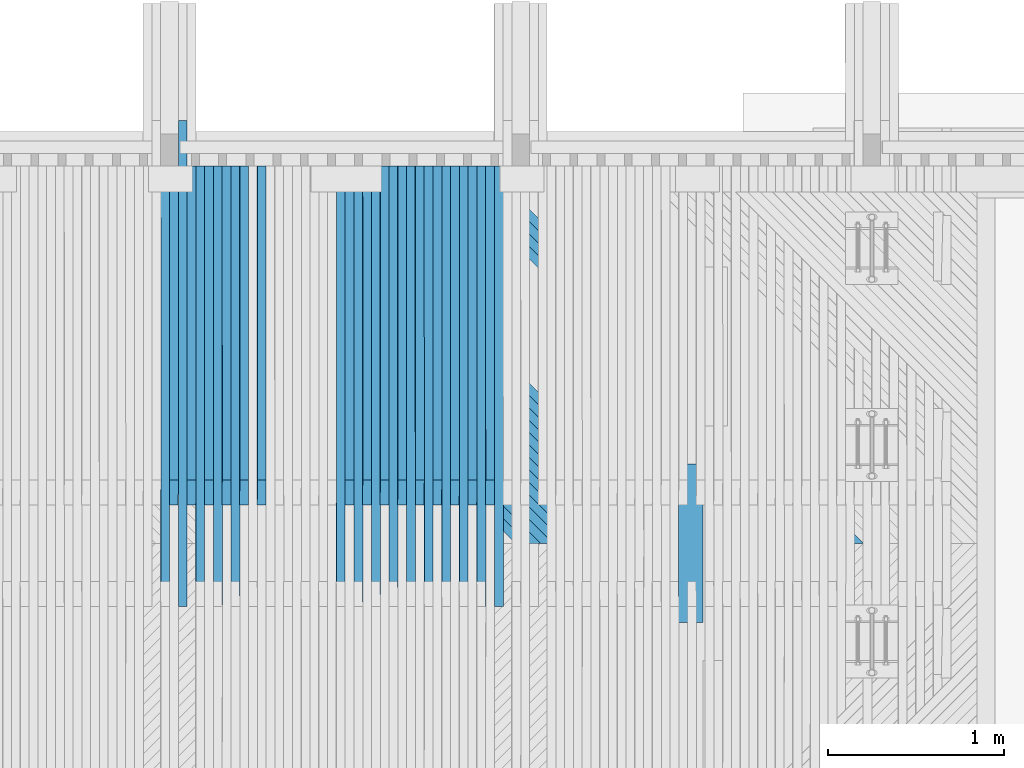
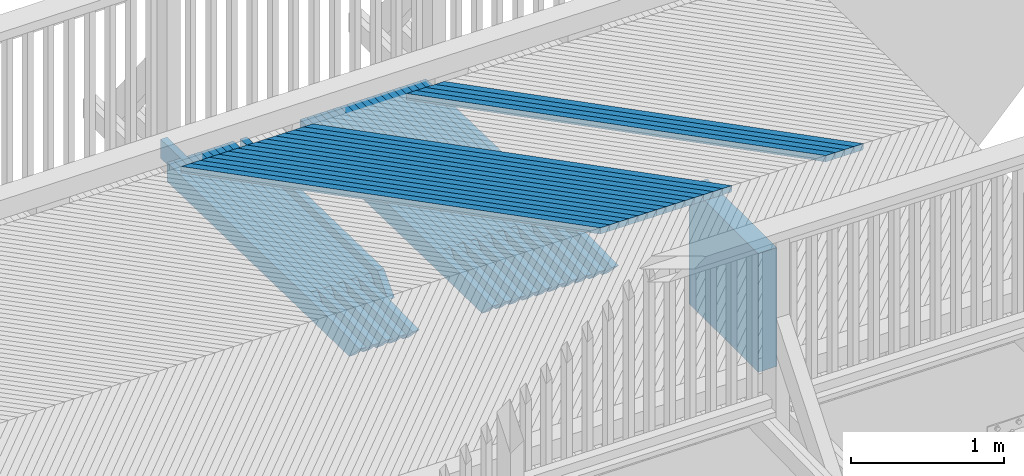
# One storey, part 43 of 53: 49 beams.
"""IFC2X3 building model written with IfcOpenShell, lengths in millimetres."""

from ifc_helpers import new_model, si_unit, frame, origin_with_axes, place, context, subcontext, project, spatial, faceted_brep, material, type_object, element, save


model = new_model("IFC2X3")

# Units and contexts
model_context = context("Model", 3, precision=1e-05, world=origin_with_axes())
body_context = subcontext(model_context, "Body", "Model", "MODEL_VIEW")
ifc_project = project(units=[si_unit("LENGTHUNIT", "METRE", prefix="MILLI"), si_unit("AREAUNIT", "SQUARE_METRE"), si_unit("VOLUMEUNIT", "CUBIC_METRE"), si_unit("MASSUNIT", "GRAM", prefix="KILO"), si_unit("TIMEUNIT", "SECOND"), si_unit("PLANEANGLEUNIT", "RADIAN"), si_unit("SOLIDANGLEUNIT", "STERADIAN"), si_unit("THERMODYNAMICTEMPERATUREUNIT", "DEGREE_CELSIUS"), si_unit("LUMINOUSINTENSITYUNIT", "LUMEN")], contexts=[model_context])

# Site, building, storey
site_placement = place(None, origin_with_axes())
site = spatial("IfcSite", under=ifc_project, at=site_placement, Name="Undefined", CompositionType="ELEMENT")
building_placement = place(site_placement, origin_with_axes())
building = spatial("IfcBuilding", under=site, at=building_placement, Name="Undefined", CompositionType="ELEMENT")
storey_placement = place(building_placement, origin_with_axes())
storey = spatial("IfcBuildingStorey", under=building, at=storey_placement, Name="Undefined", CompositionType="ELEMENT", Elevation=0.0)

# Beams
ifc_material = material(Name="TIMBER/Timber_Undefined")
beam_type_1 = type_object("IfcBeamType", Name="945*140", PredefinedType="NOTDEFINED")
beam_1_placement = place(storey_placement, frame((14969.0, 42817.5, 2502.2279002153), z_axis=(0.0, 0.0, 1.0), x_axis=(0.0, -1.0, 0.0)))
element("IfcBeam", 1, at=beam_1_placement, inside=storey, type_object=beam_type_1, material=ifc_material, Name="PALKKI", ObjectType="945*140", context=body_context, shape_type="Brep", body=[
    faceted_brep([(0.0, 70.0, -472.5), (0.0, 70.0, 472.5), (905.0, 70.0, 472.5), (905.0, 70.0, -472.5), (0.0, -70.0, 472.5), (905.0, -70.0, 472.5), (0.0, -70.0, -472.5), (905.0, -70.0, -472.5)], [[[0, 1, 2, 3]], [[1, 4, 5, 2]], [[4, 6, 7, 5]], [[6, 0, 3, 7]], [[5, 7, 3, 2]], [[6, 4, 1, 0]]]),
])
beam_type_2 = type_object("IfcBeamType", Name="50*50", PredefinedType="NOTDEFINED")
for number, where, z_axis, x_axis, name in (
    (2, (15915.2442465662, 42365.4998996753, 3184.09352561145), (0.706884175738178, 0.706981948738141, -0.0221649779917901), (-0.707238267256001, 0.706948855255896, -0.00611141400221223), "BEAM"),
    (3, (15844.5260699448, 42365.4998996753, 3185.01910211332), (0.706886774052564, 0.706981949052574, -0.0220819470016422), (-0.707237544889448, 0.706948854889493, -0.00619448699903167), "BEAM"),
    (4, (15773.8077850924, 42365.4998996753, 3185.93637200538), (0.706889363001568, 0.70698194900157, -0.021998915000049), (-0.707236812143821, 0.706948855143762, -0.00627756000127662), "BEAM"),
    (5, (15703.0893929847, 42365.4998996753, 3186.8453352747), (0.70689194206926, 0.706981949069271, -0.0219158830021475), (-0.707236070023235, 0.706948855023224, -0.006360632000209), "BEAM"),
    (6, (14925.1802800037, 42365.4998996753, 3196.29569063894), (0.706919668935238, 0.706981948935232, -0.0210025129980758), (-0.70722726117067, 0.706948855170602, -0.00727442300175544), "BEAM"),
    (7, (14854.4606769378, 42365.4998996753, 3197.1049734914), (0.706922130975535, 0.706981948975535, -0.0209194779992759), (-0.707226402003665, 0.706948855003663, -0.00735749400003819), "BEAM"),
    (8, (14783.740979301, 42365.4998996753, 3197.90594956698), (0.706924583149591, 0.706981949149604, -0.020836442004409), (-0.70722553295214, 0.706948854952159, -0.00744056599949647), "BEAM"),
    (9, (14713.0211880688, 42365.4998996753, 3198.69861885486), (0.706927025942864, 0.706981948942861, -0.0207534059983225), (-0.707224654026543, 0.706948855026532, -0.00752363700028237), "BEAM"),
    (10, (14642.301304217, 42365.4998996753, 3199.4829813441), (0.706929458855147, 0.706981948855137, -0.0206703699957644), (-0.70722376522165, 0.706948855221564, -0.00760670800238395), "BEAM"),
    (11, (14571.5813287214, 42365.4998996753, 3200.25903702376), (0.706931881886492, 0.706981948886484, -0.0205873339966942), (-0.707222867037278, 0.706948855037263, -0.00768977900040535), "BEAM"),
    (12, (14500.8612625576, 42365.4998996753, 3201.02678588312), (0.706934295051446, 0.706981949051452, -0.0205042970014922), (-0.707221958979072, 0.706948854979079, -0.00777284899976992), "BEAM"),
    (13, (14430.1411067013, 42365.4998996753, 3201.78622791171), (0.706936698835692, 0.706981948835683, -0.0204212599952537), (-0.707221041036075, 0.706948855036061, -0.00785592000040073), "BEAM"),
    (14, (14359.4208621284, 42365.4998996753, 3202.53736309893), (0.706939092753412, 0.706981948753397, -0.0203382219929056), (-0.707220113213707, 0.706948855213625, -0.00793899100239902), "BEAM"),
    (15, (14288.7005298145, 42365.4998996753, 3203.28019143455), (0.706941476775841, 0.706981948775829, -0.0202551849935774), (-0.707219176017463, 0.706948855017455, -0.00802206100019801), "BEAM"),
    (16, (14217.9801107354, 42365.4998996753, 3204.01471290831), (0.706943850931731, 0.706981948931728, -0.0201721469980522), (-0.707218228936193, 0.706948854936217, -0.00810513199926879), "BEAM"),
    (17, (14147.2596058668, 42365.4998996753, 3204.74092750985), (0.706946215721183, 0.706981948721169, -0.020089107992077), (-0.707217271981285, 0.706948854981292, -0.00818820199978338), "BEAM"),
    (18, (14076.5390161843, 42365.4998996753, 3205.45883522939), (0.706948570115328, 0.706981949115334, -0.0200060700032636), (-0.707216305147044, 0.706948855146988, -0.00827127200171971), "BEAM"),
    (19, (14005.8183426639, 42365.4998996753, 3206.16843605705), (0.706950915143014, 0.706981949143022, -0.0199230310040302), (-0.707215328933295, 0.70694885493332, -0.00835434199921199), "BEAM"),
):
    element("IfcBeam", number, at=place(storey_placement, frame(where, z_axis=z_axis, x_axis=x_axis)), inside=storey, type_object=beam_type_2, material=ifc_material, Name=name, ObjectType="50*50", context=body_context, shape_type="Brep", body=[
        faceted_brep([(23.5869248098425, 25.0000000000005, -24.9999999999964), (-26.415415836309, 25.0000000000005, 25.0000000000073), (2802.92643296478, 25.0, 25.0), (2852.92877373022, 25.0, -25.0000000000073), (-25.001170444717, -24.9999999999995, 25.0000000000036), (2804.3406783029, -25.0, 24.9999999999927), (25.0011701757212, -24.9999999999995, -24.9999999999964), (2854.34301907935, -25.0, -25.0)], [[[0, 1, 2, 3]], [[1, 4, 5, 2]], [[4, 6, 7, 5]], [[6, 0, 3, 7]], [[5, 7, 3, 2]], [[6, 4, 1, 0]]]),
    ])
beam_type_3 = type_object("IfcBeamType", Name="150*50", PredefinedType="NOTDEFINED")
for number, where, z_axis, x_axis, name in (
    (20, (13875.0597412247, 44513.4953923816, 3064.47376901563), (0.00967943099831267, 0.0199960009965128, 0.999753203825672), (0.000193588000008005, -0.999800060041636, 0.0199950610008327), "BEAM"),
    (21, (13775.0443914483, 44513.4953923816, 3065.44163255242), (0.00951331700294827, 0.0199960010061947, 0.999754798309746), (0.000190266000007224, -0.999800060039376, 0.0199950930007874), "BEAM"),
):
    element("IfcBeam", number, at=place(storey_placement, frame(where, z_axis=z_axis, x_axis=x_axis)), inside=storey, type_object=beam_type_3, material=ifc_material, Name=name, ObjectType="150*50", context=body_context, shape_type="Brep", body=[
        faceted_brep([(1.28420651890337e-08, -24.9999999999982, -74.9999999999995), (1.28420651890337e-08, 25.0000000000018, -75.0), (2375.00494422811, 25.0000000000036, -75.0), (2375.0049444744, -24.9999999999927, -74.9999999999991), (-1.28347892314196e-08, -24.9999999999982, 75.0), (-1.28347892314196e-08, 25.0, 75.0), (2150.42515052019, 25.0000000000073, 75.0), (2510.59248715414, 25.0000000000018, 60.5875433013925), (2510.5924871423, -24.9999999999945, 60.5875430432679), (2150.42514405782, -24.9999999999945, 75.0)], [[[0, 1, 2, 3]], [[0, 4, 5, 1]], [[2, 1, 5, 6, 7]], [[3, 2, 7, 8]], [[4, 0, 3, 8, 9]], [[5, 4, 9, 6]], [[8, 7, 6, 9]]]),
    ])
beam_2_placement = place(storey_placement, frame((13825.062080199, 44513.4953923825, 3064.95737203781), z_axis=(0.00967943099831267, 0.0199960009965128, 0.999753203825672), x_axis=(0.000193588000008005, -0.999800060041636, 0.0199950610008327)))
element("IfcBeam", 22, at=beam_2_placement, inside=storey, type_object=beam_type_3, material=ifc_material, Name="BEAM", ObjectType="150*50", context=body_context, shape_type="Brep", body=[
    faceted_brep([(1.28420651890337e-08, -24.9999999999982, -74.9999999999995), (-1.28347892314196e-08, -24.9999999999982, 75.0), (-1.28347892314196e-08, 25.0, 75.0), (1.28420651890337e-08, 25.0000000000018, -75.0), (1789.96936408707, 24.9999999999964, 75.0000000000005), (1928.42646328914, 24.9999999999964, -74.9999999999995), (1928.42646353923, -25.0000000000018, -75.0), (1789.96936433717, -25.0000000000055, 74.9999999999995)], [[[0, 1, 2, 3]], [[3, 2, 4, 5]], [[0, 3, 5, 6]], [[1, 0, 6, 7]], [[2, 1, 7, 4]], [[5, 4, 7, 6]]]),
])
beam_3_placement = place(storey_placement, frame((13675.0288822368, 44513.4953923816, 3066.39287799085), z_axis=(0.00934720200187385, 0.0199960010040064, 0.999756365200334), x_axis=(0.000186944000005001, -0.999800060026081, 0.0199951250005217)))
element("IfcBeam", 23, at=beam_3_placement, inside=storey, type_object=beam_type_3, material=ifc_material, Name="BEAM", ObjectType="150*50", context=body_context, shape_type="Brep", body=[
    faceted_brep([(1.28420651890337e-08, -24.9999999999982, -74.9999999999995), (1.28420651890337e-08, 25.0000000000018, -75.0), (2375.00494422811, 25.0000000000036, -75.0), (2375.0049444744, -24.9999999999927, -74.9999999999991), (-1.28347892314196e-08, -24.9999999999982, 75.0), (-1.28347892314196e-08, 25.0, 75.0), (2150.42515052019, 25.0000000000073, 75.0), (2510.59248715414, 25.0000000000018, 60.5875433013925), (2510.5924871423, -24.9999999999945, 60.5875430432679), (2150.42514405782, -24.9999999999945, 75.0)], [[[0, 1, 2, 3]], [[0, 4, 5, 1]], [[2, 1, 5, 6, 7]], [[3, 2, 7, 8]], [[4, 0, 3, 8, 9]], [[5, 4, 9, 6]], [[8, 7, 6, 9]]]),
])
beam_4_placement = place(storey_placement, frame((13725.0466507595, 44513.4953923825, 3065.91692818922), z_axis=(0.00951331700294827, 0.0199960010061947, 0.999754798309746), x_axis=(0.000190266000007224, -0.999800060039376, 0.0199950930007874)))
element("IfcBeam", 24, at=beam_4_placement, inside=storey, type_object=beam_type_3, material=ifc_material, Name="BEAM", ObjectType="150*50", context=body_context, shape_type="Brep", body=[
    faceted_brep([(1.28420651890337e-08, -24.9999999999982, -74.9999999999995), (-1.28347892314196e-08, -24.9999999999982, 75.0), (-1.28347892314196e-08, 25.0, 75.0), (1.28420651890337e-08, 25.0000000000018, -75.0), (1789.96936408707, 24.9999999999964, 75.0000000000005), (1928.42646328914, 24.9999999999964, -74.9999999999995), (1928.42646353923, -25.0000000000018, -75.0), (1789.96936433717, -25.0000000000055, 74.9999999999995)], [[[0, 1, 2, 3]], [[3, 2, 4, 5]], [[0, 3, 5, 6]], [[1, 0, 6, 7]], [[2, 1, 7, 4]], [[5, 4, 7, 6]]]),
])
beam_5_placement = place(storey_placement, frame((13575.0132163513, 44513.4953923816, 3067.32750530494), z_axis=(0.00918108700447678, 0.0199960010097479, 0.999757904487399), x_axis=(0.000183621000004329, -0.999800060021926, 0.0199951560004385)))
element("IfcBeam", 25, at=beam_5_placement, inside=storey, type_object=beam_type_3, material=ifc_material, Name="BEAM", ObjectType="150*50", context=body_context, shape_type="Brep", body=[
    faceted_brep([(1.28420651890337e-08, -24.9999999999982, -74.9999999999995), (1.28420651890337e-08, 25.0000000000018, -75.0), (2375.00494422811, 25.0000000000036, -75.0), (2375.0049444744, -24.9999999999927, -74.9999999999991), (-1.28347892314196e-08, -24.9999999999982, 75.0), (-1.28347892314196e-08, 25.0, 75.0), (2150.42515052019, 25.0000000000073, 75.0), (2510.59248715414, 25.0000000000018, 60.5875433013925), (2510.5924871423, -24.9999999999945, 60.5875430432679), (2150.42514405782, -24.9999999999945, 75.0)], [[[0, 1, 2, 3]], [[0, 4, 5, 1]], [[2, 1, 5, 6, 7]], [[3, 2, 7, 8]], [[4, 0, 3, 8, 9]], [[5, 4, 9, 6]], [[8, 7, 6, 9]]]),
])
beam_6_placement = place(storey_placement, frame((13625.0310632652, 44513.4953923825, 3066.85986622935), z_axis=(0.00934720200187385, 0.0199960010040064, 0.999756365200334), x_axis=(0.000186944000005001, -0.999800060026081, 0.0199951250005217)))
element("IfcBeam", 26, at=beam_6_placement, inside=storey, type_object=beam_type_3, material=ifc_material, Name="BEAM", ObjectType="150*50", context=body_context, shape_type="Brep", body=[
    faceted_brep([(1.28420651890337e-08, -24.9999999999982, -74.9999999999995), (-1.28347892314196e-08, -24.9999999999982, 75.0), (-1.28347892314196e-08, 25.0, 75.0), (1.28420651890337e-08, 25.0000000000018, -75.0), (1789.96936408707, 24.9999999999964, 75.0000000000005), (1928.42646328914, 24.9999999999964, -74.9999999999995), (1928.42646353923, -25.0000000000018, -75.0), (1789.96936433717, -25.0000000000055, 74.9999999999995)], [[[0, 1, 2, 3]], [[3, 2, 4, 5]], [[0, 3, 5, 6]], [[1, 0, 6, 7]], [[2, 1, 7, 4]], [[5, 4, 7, 6]]]),
])
beam_7_placement = place(storey_placement, frame((13474.9973965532, 44513.4953923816, 3068.24551446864), z_axis=(0.00901497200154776, 0.0199960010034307, 0.999759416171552), x_axis=(0.000180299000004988, -0.999800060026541, 0.0199951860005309)))
element("IfcBeam", 27, at=beam_7_placement, inside=storey, type_object=beam_type_3, material=ifc_material, Name="BEAM", ObjectType="150*50", context=body_context, shape_type="Brep", body=[
    faceted_brep([(1.28420651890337e-08, -24.9999999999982, -74.9999999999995), (1.28420651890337e-08, 25.0000000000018, -75.0), (2375.00494422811, 25.0000000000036, -75.0), (2375.0049444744, -24.9999999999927, -74.9999999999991), (-1.28347892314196e-08, -24.9999999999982, 75.0), (-1.28347892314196e-08, 25.0, 75.0), (2150.42515052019, 25.0000000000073, 75.0), (2510.59248715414, 25.0000000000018, 60.5875433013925), (2510.5924871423, -24.9999999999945, 60.5875430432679), (2150.42514405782, -24.9999999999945, 75.0)], [[[0, 1, 2, 3]], [[0, 4, 5, 1]], [[2, 1, 5, 6, 7]], [[3, 2, 7, 8]], [[4, 0, 3, 8, 9]], [[5, 4, 9, 6]], [[8, 7, 6, 9]]]),
])
beam_8_placement = place(storey_placement, frame((13525.0153204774, 44513.4953923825, 3067.78618613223), z_axis=(0.00918108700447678, 0.0199960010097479, 0.999757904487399), x_axis=(0.000183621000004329, -0.999800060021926, 0.0199951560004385)))
element("IfcBeam", 28, at=beam_8_placement, inside=storey, type_object=beam_type_3, material=ifc_material, Name="BEAM", ObjectType="150*50", context=body_context, shape_type="Brep", body=[
    faceted_brep([(1.28420651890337e-08, -24.9999999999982, -74.9999999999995), (-1.28347892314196e-08, -24.9999999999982, 75.0), (-1.28347892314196e-08, 25.0, 75.0), (1.28420651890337e-08, 25.0000000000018, -75.0), (1789.96936408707, 24.9999999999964, 75.0000000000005), (1928.42646328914, 24.9999999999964, -74.9999999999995), (1928.42646353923, -25.0000000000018, -75.0), (1789.96936433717, -25.0000000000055, 74.9999999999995)], [[[0, 1, 2, 3]], [[3, 2, 4, 5]], [[0, 3, 5, 6]], [[1, 0, 6, 7]], [[2, 1, 7, 4]], [[5, 4, 7, 6]]]),
])
beam_9_placement = place(storey_placement, frame((13374.9814256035, 44513.4953923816, 3069.1469054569), z_axis=(0.00884885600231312, 0.0199960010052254, 0.999760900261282), x_axis=(0.000176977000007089, -0.999800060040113, 0.0199952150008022)))
element("IfcBeam", 29, at=beam_9_placement, inside=storey, type_object=beam_type_3, material=ifc_material, Name="BEAM", ObjectType="150*50", context=body_context, shape_type="Brep", body=[
    faceted_brep([(1.28420651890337e-08, -24.9999999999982, -74.9999999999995), (1.28420651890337e-08, 25.0000000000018, -75.0), (2375.00494422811, 25.0000000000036, -75.0), (2375.0049444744, -24.9999999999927, -74.9999999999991), (-1.28347892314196e-08, -24.9999999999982, 75.0), (-1.28347892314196e-08, 25.0, 75.0), (2150.42515052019, 25.0000000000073, 75.0), (2510.59248715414, 25.0000000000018, 60.5875433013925), (2510.5924871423, -24.9999999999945, 60.5875430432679), (2150.42514405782, -24.9999999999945, 75.0)], [[[0, 1, 2, 3]], [[0, 4, 5, 1]], [[2, 1, 5, 6, 7]], [[3, 2, 7, 8]], [[4, 0, 3, 8, 9]], [[5, 4, 9, 6]], [[8, 7, 6, 9]]]),
])
beam_10_placement = place(storey_placement, frame((13424.9994251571, 44513.4953923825, 3068.69588787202), z_axis=(0.00901497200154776, 0.0199960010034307, 0.999759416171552), x_axis=(0.000180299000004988, -0.999800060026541, 0.0199951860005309)))
element("IfcBeam", 30, at=beam_10_placement, inside=storey, type_object=beam_type_3, material=ifc_material, Name="BEAM", ObjectType="150*50", context=body_context, shape_type="Brep", body=[
    faceted_brep([(1.28420651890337e-08, -24.9999999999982, -74.9999999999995), (-1.28347892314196e-08, -24.9999999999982, 75.0), (-1.28347892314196e-08, 25.0, 75.0), (1.28420651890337e-08, 25.0000000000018, -75.0), (1789.96936408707, 24.9999999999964, 75.0000000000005), (1928.42646328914, 24.9999999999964, -74.9999999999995), (1928.42646353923, -25.0000000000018, -75.0), (1789.96936433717, -25.0000000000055, 74.9999999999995)], [[[0, 1, 2, 3]], [[3, 2, 4, 5]], [[0, 3, 5, 6]], [[1, 0, 6, 7]], [[2, 1, 7, 4]], [[5, 4, 7, 6]]]),
])
beam_11_placement = place(storey_placement, frame((13274.9653062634, 44513.4953923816, 3070.03167824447), z_axis=(0.00868274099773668, 0.019996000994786, 0.999762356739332), x_axis=(0.000173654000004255, -0.999800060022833, 0.0199952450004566)))
element("IfcBeam", 31, at=beam_11_placement, inside=storey, type_object=beam_type_3, material=ifc_material, Name="BEAM", ObjectType="150*50", context=body_context, shape_type="Brep", body=[
    faceted_brep([(1.28420651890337e-08, -24.9999999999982, -74.9999999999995), (1.28420651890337e-08, 25.0000000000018, -75.0), (2375.00494422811, 25.0000000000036, -75.0), (2375.0049444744, -24.9999999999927, -74.9999999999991), (-1.28347892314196e-08, -24.9999999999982, 75.0), (-1.28347892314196e-08, 25.0, 75.0), (2150.42515052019, 25.0000000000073, 75.0), (2510.59248715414, 25.0000000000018, 60.5875433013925), (2510.5924871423, -24.9999999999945, 60.5875430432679), (2150.42514405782, -24.9999999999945, 75.0)], [[[0, 1, 2, 3]], [[0, 4, 5, 1]], [[2, 1, 5, 6, 7]], [[3, 2, 7, 8]], [[4, 0, 3, 8, 9]], [[5, 4, 9, 6]], [[8, 7, 6, 9]]]),
])
beam_12_placement = place(storey_placement, frame((13324.9833800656, 44513.4953923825, 3069.5889714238), z_axis=(0.00884885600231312, 0.0199960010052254, 0.999760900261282), x_axis=(0.000176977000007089, -0.999800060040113, 0.0199952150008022)))
element("IfcBeam", 32, at=beam_12_placement, inside=storey, type_object=beam_type_3, material=ifc_material, Name="BEAM", ObjectType="150*50", context=body_context, shape_type="Brep", body=[
    faceted_brep([(1.28420651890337e-08, -24.9999999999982, -74.9999999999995), (-1.28347892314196e-08, -24.9999999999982, 75.0), (-1.28347892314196e-08, 25.0, 75.0), (1.28420651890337e-08, 25.0000000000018, -75.0), (1789.96936408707, 24.9999999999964, 75.0000000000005), (1928.42646328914, 24.9999999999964, -74.9999999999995), (1928.42646353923, -25.0000000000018, -75.0), (1789.96936433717, -25.0000000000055, 74.9999999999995)], [[[0, 1, 2, 3]], [[3, 2, 4, 5]], [[0, 3, 5, 6]], [[1, 0, 6, 7]], [[2, 1, 7, 4]], [[5, 4, 7, 6]]]),
])
beam_13_placement = place(storey_placement, frame((13174.9490412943, 44513.4953923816, 3070.89983280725), z_axis=(0.00851662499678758, 0.0199960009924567, 0.999763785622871), x_axis=(0.000170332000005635, -0.999800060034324, 0.0199952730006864)))
element("IfcBeam", 33, at=beam_13_placement, inside=storey, type_object=beam_type_3, material=ifc_material, Name="BEAM", ObjectType="150*50", context=body_context, shape_type="Brep", body=[
    faceted_brep([(1.28420651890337e-08, -24.9999999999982, -74.9999999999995), (1.28420651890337e-08, 25.0000000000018, -75.0), (2375.00494422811, 25.0000000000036, -75.0), (2375.0049444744, -24.9999999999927, -74.9999999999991), (-1.28347892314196e-08, -24.9999999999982, 75.0), (-1.28347892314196e-08, 25.0, 75.0), (2150.42515052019, 25.0000000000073, 75.0), (2510.59248715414, 25.0000000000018, 60.5875433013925), (2510.5924871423, -24.9999999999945, 60.5875430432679), (2150.42514405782, -24.9999999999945, 75.0)], [[[0, 1, 2, 3]], [[0, 4, 5, 1]], [[2, 1, 5, 6, 7]], [[3, 2, 7, 8]], [[4, 0, 3, 8, 9]], [[5, 4, 9, 6]], [[8, 7, 6, 9]]]),
])
beam_14_placement = place(storey_placement, frame((13224.9671879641, 44513.4953923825, 3070.4654367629), z_axis=(0.00868274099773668, 0.019996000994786, 0.999762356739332), x_axis=(0.000173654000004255, -0.999800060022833, 0.0199952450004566)))
element("IfcBeam", 34, at=beam_14_placement, inside=storey, type_object=beam_type_3, material=ifc_material, Name="BEAM", ObjectType="150*50", context=body_context, shape_type="Brep", body=[
    faceted_brep([(1.28420651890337e-08, -24.9999999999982, -74.9999999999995), (-1.28347892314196e-08, -24.9999999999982, 75.0), (-1.28347892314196e-08, 25.0, 75.0), (1.28420651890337e-08, 25.0000000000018, -75.0), (1789.96936408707, 24.9999999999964, 75.0000000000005), (1928.42646328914, 24.9999999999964, -74.9999999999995), (1928.42646353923, -25.0000000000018, -75.0), (1789.96936433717, -25.0000000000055, 74.9999999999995)], [[[0, 1, 2, 3]], [[3, 2, 4, 5]], [[0, 3, 5, 6]], [[1, 0, 6, 7]], [[2, 1, 7, 4]], [[5, 4, 7, 6]]]),
])
beam_15_placement = place(storey_placement, frame((13074.9326334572, 44513.4953923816, 3071.75136912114), z_axis=(0.00835050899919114, 0.019996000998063, 0.999765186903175), x_axis=(0.000167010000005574, -0.999800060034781, 0.0199953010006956)))
element("IfcBeam", 35, at=beam_15_placement, inside=storey, type_object=beam_type_3, material=ifc_material, Name="BEAM", ObjectType="150*50", context=body_context, shape_type="Brep", body=[
    faceted_brep([(1.28420651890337e-08, -24.9999999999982, -74.9999999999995), (1.28420651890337e-08, 25.0000000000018, -75.0), (2375.00494422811, 25.0000000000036, -75.0), (2375.0049444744, -24.9999999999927, -74.9999999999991), (-1.28347892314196e-08, -24.9999999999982, 75.0), (-1.28347892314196e-08, 25.0, 75.0), (2150.42515052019, 25.0000000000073, 75.0), (2510.59248715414, 25.0000000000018, 60.5875433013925), (2510.5924871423, -24.9999999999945, 60.5875430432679), (2150.42514405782, -24.9999999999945, 75.0)], [[[0, 1, 2, 3]], [[0, 4, 5, 1]], [[2, 1, 5, 6, 7]], [[3, 2, 7, 8]], [[4, 0, 3, 8, 9]], [[5, 4, 9, 6]], [[8, 7, 6, 9]]]),
])
beam_16_placement = place(storey_placement, frame((13124.9508516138, 44513.4953923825, 3071.32528386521), z_axis=(0.00851662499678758, 0.0199960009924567, 0.999763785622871), x_axis=(0.000170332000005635, -0.999800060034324, 0.0199952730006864)))
element("IfcBeam", 36, at=beam_16_placement, inside=storey, type_object=beam_type_3, material=ifc_material, Name="BEAM", ObjectType="150*50", context=body_context, shape_type="Brep", body=[
    faceted_brep([(1.28420651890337e-08, -24.9999999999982, -74.9999999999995), (-1.28347892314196e-08, -24.9999999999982, 75.0), (-1.28347892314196e-08, 25.0, 75.0), (1.28420651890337e-08, 25.0000000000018, -75.0), (1789.96936408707, 24.9999999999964, 75.0000000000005), (1928.42646328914, 24.9999999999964, -74.9999999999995), (1928.42646353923, -25.0000000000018, -75.0), (1789.96936433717, -25.0000000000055, 74.9999999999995)], [[[0, 1, 2, 3]], [[3, 2, 4, 5]], [[0, 3, 5, 6]], [[1, 0, 6, 7]], [[2, 1, 7, 4]], [[5, 4, 7, 6]]]),
])
beam_17_placement = place(storey_placement, frame((12974.9160855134, 44513.4953923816, 3072.5862871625), z_axis=(0.00818439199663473, 0.0199960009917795, 0.999766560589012), x_axis=(0.000163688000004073, -0.999800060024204, 0.019995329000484)))
element("IfcBeam", 37, at=beam_17_placement, inside=storey, type_object=beam_type_3, material=ifc_material, Name="BEAM", ObjectType="150*50", context=body_context, shape_type="Brep", body=[
    faceted_brep([(1.28420651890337e-08, -24.9999999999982, -74.9999999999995), (1.28420651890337e-08, 25.0000000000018, -75.0), (2375.00494422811, 25.0000000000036, -75.0), (2375.0049444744, -24.9999999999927, -74.9999999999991), (-1.28347892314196e-08, -24.9999999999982, 75.0), (-1.28347892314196e-08, 25.0, 75.0), (2150.42515052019, 25.0000000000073, 75.0), (2510.59248715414, 25.0000000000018, 60.5875433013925), (2510.5924871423, -24.9999999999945, 60.5875430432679), (2150.42514405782, -24.9999999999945, 75.0)], [[[0, 1, 2, 3]], [[0, 4, 5, 1]], [[2, 1, 5, 6, 7]], [[3, 2, 7, 8]], [[4, 0, 3, 8, 9]], [[5, 4, 9, 6]], [[8, 7, 6, 9]]]),
])
for number, where, z_axis, x_axis, name in (
    (38, (13024.9343737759, 44513.4953923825, 3072.16851270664), (0.00835050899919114, 0.019996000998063, 0.999765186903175), (0.000167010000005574, -0.999800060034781, 0.0199953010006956), "BEAM"),
    (39, (12524.8499589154, 44513.4953923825, 3076.13538220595), (0.00751992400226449, 0.0199960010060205, 0.99977177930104), (0.000150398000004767, -0.999800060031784, 0.0199954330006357), "BEAM"),
):
    element("IfcBeam", number, at=place(storey_placement, frame(where, z_axis=z_axis, x_axis=x_axis)), inside=storey, type_object=beam_type_3, material=ifc_material, Name=name, ObjectType="150*50", context=body_context, shape_type="Brep", body=[
        faceted_brep([(1.28420651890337e-08, -24.9999999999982, -74.9999999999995), (-1.28347892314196e-08, -24.9999999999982, 75.0), (-1.28347892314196e-08, 25.0, 75.0), (1.28420651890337e-08, 25.0000000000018, -75.0), (1789.96936408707, 24.9999999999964, 75.0000000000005), (1928.42646328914, 24.9999999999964, -74.9999999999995), (1928.42646353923, -25.0000000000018, -75.0), (1789.96936433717, -25.0000000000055, 74.9999999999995)], [[[0, 1, 2, 3]], [[3, 2, 4, 5]], [[0, 3, 5, 6]], [[1, 0, 6, 7]], [[2, 1, 7, 4]], [[5, 4, 7, 6]]]),
    ])
beam_18_placement = place(storey_placement, frame((12374.8140102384, 44513.4953923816, 3077.24681043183), z_axis=(0.00718768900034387, 0.0199960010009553, 0.999774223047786), x_axis=(0.000143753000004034, -0.999800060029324, 0.0199954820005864)))
element("IfcBeam", 40, at=beam_18_placement, inside=storey, type_object=beam_type_3, material=ifc_material, Name="BEAM", ObjectType="150*50", context=body_context, shape_type="Brep", body=[
    faceted_brep([(1.28420651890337e-08, -24.9999999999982, -74.9999999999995), (1.28420651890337e-08, 25.0000000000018, -75.0), (2375.00494422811, 25.0000000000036, -75.0), (2375.0049444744, -24.9999999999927, -74.9999999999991), (-1.28347892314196e-08, -24.9999999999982, 75.0), (-1.28347892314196e-08, 25.0, 75.0), (2150.42515052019, 25.0000000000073, 75.0), (2510.59248715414, 25.0000000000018, 60.5875433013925), (2510.5924871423, -24.9999999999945, 60.5875430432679), (2150.42514405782, -24.9999999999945, 75.0)], [[[0, 1, 2, 3]], [[0, 4, 5, 1]], [[2, 1, 5, 6, 7]], [[3, 2, 7, 8]], [[4, 0, 3, 8, 9]], [[5, 4, 9, 6]], [[8, 7, 6, 9]]]),
])
beam_19_placement = place(storey_placement, frame((12424.8326901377, 44513.4953923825, 3076.87890101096), z_axis=(0.00735380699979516, 0.0199960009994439, 0.999773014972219), x_axis=(0.000147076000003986, -0.999800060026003, 0.01999545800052)))
element("IfcBeam", 41, at=beam_19_placement, inside=storey, type_object=beam_type_3, material=ifc_material, Name="BEAM", ObjectType="150*50", context=body_context, shape_type="Brep", body=[
    faceted_brep([(1.28420651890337e-08, -24.9999999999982, -74.9999999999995), (-1.28347892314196e-08, -24.9999999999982, 75.0), (-1.28347892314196e-08, 25.0, 75.0), (1.28420651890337e-08, 25.0000000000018, -75.0), (1789.96936408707, 24.9999999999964, 75.0000000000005), (1928.42646328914, 24.9999999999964, -74.9999999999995), (1928.42646353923, -25.0000000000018, -75.0), (1789.96936433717, -25.0000000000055, 74.9999999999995)], [[[0, 1, 2, 3]], [[3, 2, 4, 5]], [[0, 3, 5, 6]], [[1, 0, 6, 7]], [[2, 1, 7, 4]], [[5, 4, 7, 6]]]),
])
beam_20_placement = place(storey_placement, frame((12274.796558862, 44513.4953923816, 3077.96539994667), z_axis=(0.00702157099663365, 0.0199960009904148, 0.999775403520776), x_axis=(0.000140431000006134, -0.999800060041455, 0.019995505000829)))
element("IfcBeam", 42, at=beam_20_placement, inside=storey, type_object=beam_type_3, material=ifc_material, Name="BEAM", ObjectType="150*50", context=body_context, shape_type="Brep", body=[
    faceted_brep([(1.28420651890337e-08, -24.9999999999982, -74.9999999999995), (1.28420651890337e-08, 25.0000000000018, -75.0), (2375.00494422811, 25.0000000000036, -75.0), (2375.0049444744, -24.9999999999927, -74.9999999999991), (-1.28347892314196e-08, -24.9999999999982, 75.0), (-1.28347892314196e-08, 25.0, 75.0), (2150.42515052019, 25.0000000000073, 75.0), (2510.59248715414, 25.0000000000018, 60.5875433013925), (2510.5924871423, -24.9999999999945, 60.5875430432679), (2150.42514405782, -24.9999999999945, 75.0)], [[[0, 1, 2, 3]], [[0, 4, 5, 1]], [[2, 1, 5, 6, 7]], [[3, 2, 7, 8]], [[4, 0, 3, 8, 9]], [[5, 4, 9, 6]], [[8, 7, 6, 9]]]),
])
beam_21_placement = place(storey_placement, frame((12324.8152992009, 44513.4953923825, 3077.60580140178), z_axis=(0.00718768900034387, 0.0199960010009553, 0.999774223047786), x_axis=(0.000143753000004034, -0.999800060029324, 0.0199954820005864)))
element("IfcBeam", 43, at=beam_21_placement, inside=storey, type_object=beam_type_3, material=ifc_material, Name="BEAM", ObjectType="150*50", context=body_context, shape_type="Brep", body=[
    faceted_brep([(1.28420651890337e-08, -24.9999999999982, -74.9999999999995), (-1.28347892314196e-08, -24.9999999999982, 75.0), (-1.28347892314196e-08, 25.0, 75.0), (1.28420651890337e-08, 25.0000000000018, -75.0), (1789.96936408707, 24.9999999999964, 75.0000000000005), (1928.42646328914, 24.9999999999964, -74.9999999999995), (1928.42646353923, -25.0000000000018, -75.0), (1789.96936433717, -25.0000000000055, 74.9999999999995)], [[[0, 1, 2, 3]], [[3, 2, 4, 5]], [[0, 3, 5, 6]], [[1, 0, 6, 7]], [[2, 1, 7, 4]], [[5, 4, 7, 6]]]),
])
beam_22_placement = place(storey_placement, frame((12174.7789894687, 44513.4953923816, 3078.66737101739), z_axis=(0.00685545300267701, 0.0199960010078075, 0.999776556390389), x_axis=(0.000137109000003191, -0.99980006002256, 0.0199955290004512)))
element("IfcBeam", 44, at=beam_22_placement, inside=storey, type_object=beam_type_3, material=ifc_material, Name="BEAM", ObjectType="150*50", context=body_context, shape_type="Brep", body=[
    faceted_brep([(1.28420651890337e-08, -24.9999999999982, -74.9999999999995), (1.28420651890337e-08, 25.0000000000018, -75.0), (2375.00494422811, 25.0000000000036, -75.0), (2375.0049444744, -24.9999999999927, -74.9999999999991), (-1.28347892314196e-08, -24.9999999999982, 75.0), (-1.28347892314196e-08, 25.0, 75.0), (2150.42515052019, 25.0000000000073, 75.0), (2510.59248715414, 25.0000000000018, 60.5875433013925), (2510.5924871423, -24.9999999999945, 60.5875430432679), (2150.42514405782, -24.9999999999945, 75.0)], [[[0, 1, 2, 3]], [[0, 4, 5, 1]], [[2, 1, 5, 6, 7]], [[3, 2, 7, 8]], [[4, 0, 3, 8, 9]], [[5, 4, 9, 6]], [[8, 7, 6, 9]]]),
])
for number, where, z_axis, x_axis, name in (
    (45, (12224.7977888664, 44513.4953923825, 3078.3160833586), (0.00702157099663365, 0.0199960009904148, 0.999775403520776), (0.000140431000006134, -0.999800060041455, 0.019995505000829), "BEAM"),
    (46, (12124.7801618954, 44513.4953923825, 3079.00974686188), (0.00685545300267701, 0.0199960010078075, 0.999776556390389), (0.000137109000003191, -0.99980006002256, 0.0199955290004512), "BEAM"),
):
    element("IfcBeam", number, at=place(storey_placement, frame(where, z_axis=z_axis, x_axis=x_axis)), inside=storey, type_object=beam_type_3, material=ifc_material, Name=name, ObjectType="150*50", context=body_context, shape_type="Brep", body=[
        faceted_brep([(1.28420651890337e-08, -24.9999999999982, -74.9999999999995), (-1.28347892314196e-08, -24.9999999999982, 75.0), (-1.28347892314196e-08, 25.0, 75.0), (1.28420651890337e-08, 25.0000000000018, -75.0), (1789.96936408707, 24.9999999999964, 75.0000000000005), (1928.42646328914, 24.9999999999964, -74.9999999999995), (1928.42646353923, -25.0000000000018, -75.0), (1789.96936433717, -25.0000000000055, 74.9999999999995)], [[[0, 1, 2, 3]], [[3, 2, 4, 5]], [[0, 3, 5, 6]], [[1, 0, 6, 7]], [[2, 1, 7, 4]], [[5, 4, 7, 6]]]),
    ])
beam_23_placement = place(storey_placement, frame((11974.7435076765, 44513.4953923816, 3080.02145775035), z_axis=(0.00652321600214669, 0.0199960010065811, 0.999778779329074), x_axis=(0.000130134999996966, -0.999800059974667, 0.0199955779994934)))
element("IfcBeam", 47, at=beam_23_placement, inside=storey, type_object=beam_type_3, material=ifc_material, Name="BEAM", ObjectType="150*50", context=body_context, shape_type="Brep", body=[
    faceted_brep([(1.28420651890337e-08, -24.9999999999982, -74.9999999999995), (1.28420651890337e-08, 25.0000000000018, -75.0), (2375.00494422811, 25.0000000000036, -75.0), (2375.0049444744, -24.9999999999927, -74.9999999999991), (-1.28347892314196e-08, -24.9999999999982, 75.0), (-1.28347892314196e-08, 25.0, 75.0), (2150.42515052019, 25.0000000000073, 75.0), (2510.59248715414, 25.0000000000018, 60.5875433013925), (2510.5924871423, -24.9999999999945, 60.5875430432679), (2150.42514405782, -24.9999999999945, 75.0)], [[[0, 1, 2, 3]], [[0, 4, 5, 1]], [[2, 1, 5, 6, 7]], [[3, 2, 7, 8]], [[4, 0, 3, 8, 9]], [[5, 4, 9, 6]], [[8, 7, 6, 9]]]),
])
beam_24_placement = place(storey_placement, frame((12024.762421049, 44513.4953923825, 3079.68679189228), z_axis=(0.00668933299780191, 0.0199960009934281, 0.999777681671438), x_axis=(0.000133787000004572, -0.999800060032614, 0.0199955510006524)))
element("IfcBeam", 48, at=beam_24_placement, inside=storey, type_object=beam_type_3, material=ifc_material, Name="BEAM", ObjectType="150*50", context=body_context, shape_type="Brep", body=[
    faceted_brep([(1.28420651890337e-08, -24.9999999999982, -74.9999999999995), (-1.28347892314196e-08, -24.9999999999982, 75.0), (-1.28347892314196e-08, 25.0, 75.0), (1.28420651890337e-08, 25.0000000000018, -75.0), (1789.96936408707, 24.9999999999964, 75.0000000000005), (1928.42646328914, 24.9999999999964, -74.9999999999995), (1928.42646353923, -25.0000000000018, -75.0), (1789.96936433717, -25.0000000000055, 74.9999999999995)], [[[0, 1, 2, 3]], [[3, 2, 4, 5]], [[0, 3, 5, 6]], [[1, 0, 6, 7]], [[2, 1, 7, 4]], [[5, 4, 7, 6]]]),
])
beam_25_placement = place(storey_placement, frame((12074.8964111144, 44771.443807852, 3074.19368747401), z_axis=(0.00668828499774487, 0.0199960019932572, 0.999777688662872), x_axis=(0.000133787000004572, -0.999800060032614, 0.0199955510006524)))
element("IfcBeam", 49, at=beam_25_placement, inside=storey, type_object=beam_type_3, material=ifc_material, Name="BEAM", ObjectType="150*50", context=body_context, shape_type="Brep", body=[
    faceted_brep([(1.28420651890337e-08, -24.9999999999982, -74.9999999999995), (1.28420651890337e-08, 25.0000000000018, -75.0), (2633.00494750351, 25.0, -75.0), (2633.00494763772, -25.0, -75.0), (-1.28347892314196e-08, -24.9999999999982, 75.0), (-1.28347892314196e-08, 25.0, 75.0), (2408.42506824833, 24.9999999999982, 75.0), (2768.59248710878, 24.9999999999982, 60.5875398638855), (2768.59248713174, -25.0, 60.5875397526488), (2408.42506549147, -25.0000000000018, 75.0000000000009)], [[[0, 1, 2, 3]], [[0, 4, 5, 1]], [[2, 1, 5, 6, 7]], [[3, 2, 7, 8]], [[4, 0, 3, 8, 9]], [[5, 4, 9, 6]], [[8, 7, 6, 9]]]),
])

save(model, "model.ifc")
